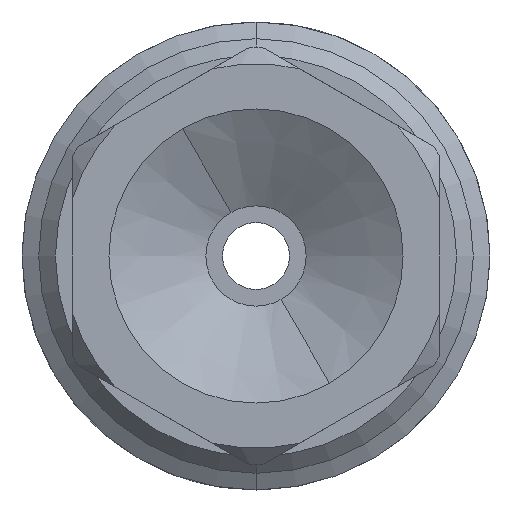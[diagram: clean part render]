
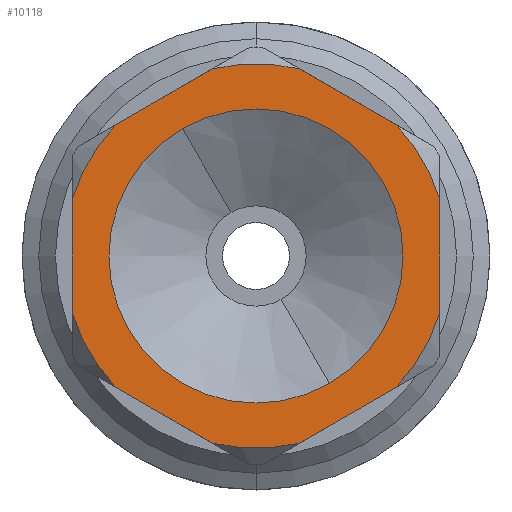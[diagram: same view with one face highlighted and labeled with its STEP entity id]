
A CAD part, front view. The second image highlights one B-rep face of the part: STEP entity #10118.
In plain terms, the highlighted planar face has unit normal (0, -1, 0).
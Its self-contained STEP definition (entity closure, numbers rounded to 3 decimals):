
#395 = CARTESIAN_POINT ( 'NONE',  ( -5.706, -28.676, 21. ) ) ;
#436 = AXIS2_PLACEMENT_3D ( 'NONE', #19075, #8235, #20896 ) ;
#1022 = CARTESIAN_POINT ( 'NONE',  ( -5.706, -28.676, 21. ) ) ;
#1734 = CARTESIAN_POINT ( 'NONE',  ( -7.003, -28.676, 15.398 ) ) ;
#2125 = LINE ( 'NONE', #16429, #6923 ) ;
#2190 = DIRECTION ( 'NONE',  ( 0., 1., 0. ) ) ;
#2215 = DIRECTION ( 'NONE',  ( -0.5, 0., 0.866 ) ) ;
#2333 = LINE ( 'NONE', #15370, #6018 ) ;
#2343 = EDGE_CURVE ( 'NONE', #11539, #7858, #17740, .T. ) ;
#2375 = ORIENTED_EDGE ( 'NONE', *, *, #16888, .F. ) ;
#2463 = ORIENTED_EDGE ( 'NONE', *, *, #13913, .T. ) ;
#2847 = DIRECTION ( 'NONE',  ( 0.866, 0., 0.5 ) ) ;
#2875 = CARTESIAN_POINT ( 'NONE',  ( -2.956, -28.676, 25.763 ) ) ;
#2940 = LINE ( 'NONE', #14123, #7183 ) ;
#3009 = AXIS2_PLACEMENT_3D ( 'NONE', #19475, #8640, #21287 ) ;
#3074 = EDGE_LOOP ( 'NONE', ( #14974, #12167 ) ) ;
#3088 = ORIENTED_EDGE ( 'NONE', *, *, #12549, .T. ) ;
#3584 = LINE ( 'NONE', #7170, #8398 ) ;
#3750 = CARTESIAN_POINT ( 'NONE',  ( -5.706, -28.676, 21. ) ) ;
#3815 = VERTEX_POINT ( 'NONE', #5582 ) ;
#3932 = PLANE ( 'NONE',  #10989 ) ;
#4185 = CARTESIAN_POINT ( 'NONE',  ( -5.706, -28.676, 21. ) ) ;
#4406 = ORIENTED_EDGE ( 'NONE', *, *, #19913, .F. ) ;
#4417 = VERTEX_POINT ( 'NONE', #1734 ) ;
#4699 = DIRECTION ( 'NONE',  ( -0.866, 0., 0.5 ) ) ;
#4747 = CARTESIAN_POINT ( 'NONE',  ( -1.503, -28.676, 17.075 ) ) ;
#4963 = AXIS2_PLACEMENT_3D ( 'NONE', #395, #13061, #2215 ) ;
#5313 = AXIS2_PLACEMENT_3D ( 'NONE', #1022, #13700, #2847 ) ;
#5530 = EDGE_CURVE ( 'NONE', #16810, #9241, #11320, .T. ) ;
#5569 = DIRECTION ( 'NONE',  ( -0.5, 0., 0.866 ) ) ;
#5582 = CARTESIAN_POINT ( 'NONE',  ( -0.206, -28.676, 22.677 ) ) ;
#5596 = VERTEX_POINT ( 'NONE', #4747 ) ;
#5751 = CARTESIAN_POINT ( 'NONE',  ( -0.206, -28.676, 19.323 ) ) ;
#5954 = AXIS2_PLACEMENT_3D ( 'NONE', #4185, #16823, #5997 ) ;
#5997 = DIRECTION ( 'NONE',  ( -0.5, 0., 0.866 ) ) ;
#6018 = VECTOR ( 'NONE', #17174, 1000. ) ;
#6093 = CIRCLE ( 'NONE', #3009, 4.4 ) ;
#6923 = VECTOR ( 'NONE', #18321, 1000. ) ;
#7047 = ORIENTED_EDGE ( 'NONE', *, *, #12753, .F. ) ;
#7065 = DIRECTION ( 'NONE',  ( 0., 1., 0. ) ) ;
#7170 = CARTESIAN_POINT ( 'NONE',  ( -8.456, -28.676, 16.237 ) ) ;
#7183 = VECTOR ( 'NONE', #12303, 1000. ) ;
#7858 = VERTEX_POINT ( 'NONE', #19940 ) ;
#7964 = ORIENTED_EDGE ( 'NONE', *, *, #15524, .T. ) ;
#8004 = CIRCLE ( 'NONE', #4963, 5.75 ) ;
#8041 = ORIENTED_EDGE ( 'NONE', *, *, #22463, .F. ) ;
#8235 = DIRECTION ( 'NONE',  ( 0., 1., 0. ) ) ;
#8398 = VECTOR ( 'NONE', #8994, 1000. ) ;
#8399 = ORIENTED_EDGE ( 'NONE', *, *, #2343, .F. ) ;
#8640 = DIRECTION ( 'NONE',  ( 0., -1., 0. ) ) ;
#8735 = DIRECTION ( 'NONE',  ( 0., 1., 0. ) ) ;
#8991 = VERTEX_POINT ( 'NONE', #17991 ) ;
#8994 = DIRECTION ( 'NONE',  ( 0.866, 0., -0.5 ) ) ;
#9113 = VERTEX_POINT ( 'NONE', #14816 ) ;
#9241 = VERTEX_POINT ( 'NONE', #15133 ) ;
#9634 = CIRCLE ( 'NONE', #16732, 5.75 ) ;
#10051 = ORIENTED_EDGE ( 'NONE', *, *, #12972, .T. ) ;
#10118 = ADVANCED_FACE ( 'NONE', ( #18762, #19876 ), #3932, .F. ) ;
#10553 = VECTOR ( 'NONE', #4699, 1000. ) ;
#10862 = AXIS2_PLACEMENT_3D ( 'NONE', #17888, #7065, #19706 ) ;
#10989 = AXIS2_PLACEMENT_3D ( 'NONE', #13041, #2190, #14835 ) ;
#11141 = VERTEX_POINT ( 'NONE', #17260 ) ;
#11149 = CIRCLE ( 'NONE', #12729, 5.75 ) ;
#11320 = CIRCLE ( 'NONE', #5313, 4.4 ) ;
#11539 = VERTEX_POINT ( 'NONE', #14515 ) ;
#11976 = DIRECTION ( 'NONE',  ( 0., 0., -1. ) ) ;
#12167 = ORIENTED_EDGE ( 'NONE', *, *, #5530, .F. ) ;
#12303 = DIRECTION ( 'NONE',  ( 0.866, 0., 0.5 ) ) ;
#12465 = ORIENTED_EDGE ( 'NONE', *, *, #14908, .T. ) ;
#12549 = EDGE_CURVE ( 'NONE', #23326, #5596, #2940, .T. ) ;
#12601 = CARTESIAN_POINT ( 'NONE',  ( -4.408, -28.676, 15.398 ) ) ;
#12729 = AXIS2_PLACEMENT_3D ( 'NONE', #3750, #16414, #5569 ) ;
#12753 = EDGE_CURVE ( 'NONE', #8991, #11141, #11149, .T. ) ;
#12972 = EDGE_CURVE ( 'NONE', #22285, #9113, #15363, .T. ) ;
#13041 = CARTESIAN_POINT ( 'NONE',  ( -7.995, -28.676, 13.327 ) ) ;
#13061 = DIRECTION ( 'NONE',  ( 0., 1., 0. ) ) ;
#13700 = DIRECTION ( 'NONE',  ( 0., -1., 0. ) ) ;
#13799 = CARTESIAN_POINT ( 'NONE',  ( -11.206, -28.676, 21. ) ) ;
#13912 = CARTESIAN_POINT ( 'NONE',  ( -9.516, -28.676, 18.8 ) ) ;
#13913 = EDGE_CURVE ( 'NONE', #8991, #4417, #3584, .T. ) ;
#14123 = CARTESIAN_POINT ( 'NONE',  ( -2.956, -28.676, 16.237 ) ) ;
#14294 = LINE ( 'NONE', #13799, #19098 ) ;
#14515 = CARTESIAN_POINT ( 'NONE',  ( -11.206, -28.676, 22.677 ) ) ;
#14517 = EDGE_CURVE ( 'NONE', #9241, #16810, #6093, .T. ) ;
#14816 = CARTESIAN_POINT ( 'NONE',  ( -4.408, -28.676, 26.602 ) ) ;
#14835 = DIRECTION ( 'NONE',  ( -0.5, 0., 0.866 ) ) ;
#14864 = EDGE_CURVE ( 'NONE', #23326, #4417, #15663, .T. ) ;
#14908 = EDGE_CURVE ( 'NONE', #11539, #11141, #14294, .T. ) ;
#14974 = ORIENTED_EDGE ( 'NONE', *, *, #14517, .F. ) ;
#15133 = CARTESIAN_POINT ( 'NONE',  ( -1.895, -28.676, 23.2 ) ) ;
#15363 = LINE ( 'NONE', #2875, #10553 ) ;
#15370 = CARTESIAN_POINT ( 'NONE',  ( -0.206, -28.676, 21. ) ) ;
#15472 = ORIENTED_EDGE ( 'NONE', *, *, #18705, .T. ) ;
#15524 = EDGE_CURVE ( 'NONE', #18754, #3815, #2333, .T. ) ;
#15663 = CIRCLE ( 'NONE', #436, 5.75 ) ;
#16273 = EDGE_LOOP ( 'NONE', ( #2375, #7964, #8041, #10051, #4406, #15472, #8399, #12465, #7047, #2463, #16771, #3088 ) ) ;
#16414 = DIRECTION ( 'NONE',  ( 0., 1., 0. ) ) ;
#16429 = CARTESIAN_POINT ( 'NONE',  ( -8.456, -28.676, 25.763 ) ) ;
#16732 = AXIS2_PLACEMENT_3D ( 'NONE', #19558, #8735, #21368 ) ;
#16771 = ORIENTED_EDGE ( 'NONE', *, *, #14864, .F. ) ;
#16810 = VERTEX_POINT ( 'NONE', #13912 ) ;
#16823 = DIRECTION ( 'NONE',  ( 0., 1., 0. ) ) ;
#16888 = EDGE_CURVE ( 'NONE', #18754, #5596, #9634, .T. ) ;
#17174 = DIRECTION ( 'NONE',  ( 0., 0., 1. ) ) ;
#17260 = CARTESIAN_POINT ( 'NONE',  ( -11.206, -28.676, 19.323 ) ) ;
#17740 = CIRCLE ( 'NONE', #5954, 5.75 ) ;
#17888 = CARTESIAN_POINT ( 'NONE',  ( -5.706, -28.676, 21. ) ) ;
#17991 = CARTESIAN_POINT ( 'NONE',  ( -9.908, -28.676, 17.075 ) ) ;
#18321 = DIRECTION ( 'NONE',  ( -0.866, 0., -0.5 ) ) ;
#18705 = EDGE_CURVE ( 'NONE', #22997, #7858, #2125, .T. ) ;
#18754 = VERTEX_POINT ( 'NONE', #5751 ) ;
#18762 = FACE_BOUND ( 'NONE', #3074, .T. ) ;
#18942 = CARTESIAN_POINT ( 'NONE',  ( -1.503, -28.676, 24.925 ) ) ;
#19075 = CARTESIAN_POINT ( 'NONE',  ( -5.706, -28.676, 21. ) ) ;
#19098 = VECTOR ( 'NONE', #11976, 1000. ) ;
#19475 = CARTESIAN_POINT ( 'NONE',  ( -5.706, -28.676, 21. ) ) ;
#19482 = CIRCLE ( 'NONE', #10862, 5.75 ) ;
#19558 = CARTESIAN_POINT ( 'NONE',  ( -5.706, -28.676, 21. ) ) ;
#19706 = DIRECTION ( 'NONE',  ( -0.5, 0., 0.866 ) ) ;
#19876 = FACE_OUTER_BOUND ( 'NONE', #16273, .T. ) ;
#19913 = EDGE_CURVE ( 'NONE', #22997, #9113, #8004, .T. ) ;
#19940 = CARTESIAN_POINT ( 'NONE',  ( -9.908, -28.676, 24.925 ) ) ;
#20896 = DIRECTION ( 'NONE',  ( -0.5, 0., 0.866 ) ) ;
#21287 = DIRECTION ( 'NONE',  ( 0.866, 0., 0.5 ) ) ;
#21368 = DIRECTION ( 'NONE',  ( -0.5, 0., 0.866 ) ) ;
#22285 = VERTEX_POINT ( 'NONE', #18942 ) ;
#22463 = EDGE_CURVE ( 'NONE', #22285, #3815, #19482, .T. ) ;
#22634 = CARTESIAN_POINT ( 'NONE',  ( -7.003, -28.676, 26.602 ) ) ;
#22997 = VERTEX_POINT ( 'NONE', #22634 ) ;
#23326 = VERTEX_POINT ( 'NONE', #12601 ) ;
